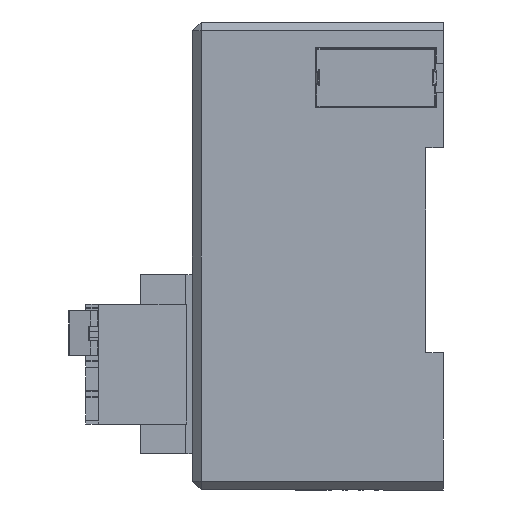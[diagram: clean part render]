
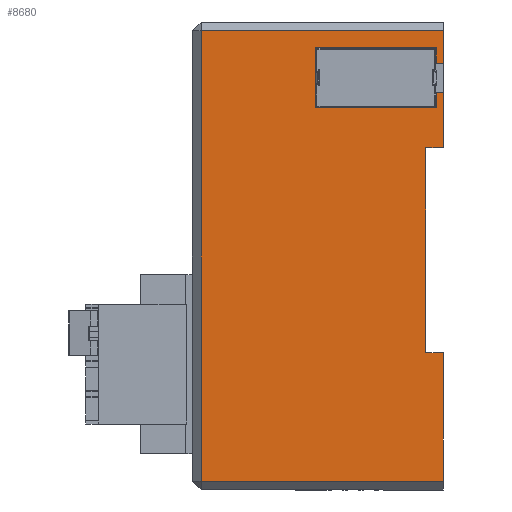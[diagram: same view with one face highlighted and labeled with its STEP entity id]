
A CAD part, left-side view. The second image highlights one B-rep face of the part: STEP entity #8680.
In plain terms, the highlighted planar face has unit normal (-1, 0, 0).
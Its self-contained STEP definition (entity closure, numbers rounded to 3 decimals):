
#56 = LINE ( 'NONE', #16531, #7143 ) ;
#328 = EDGE_CURVE ( 'NONE', #964, #6626, #29196, .T. ) ;
#653 = LINE ( 'NONE', #10599, #21937 ) ;
#964 = VERTEX_POINT ( 'NONE', #32488 ) ;
#1102 = ORIENTED_EDGE ( 'NONE', *, *, #8218, .F. ) ;
#1629 = DIRECTION ( 'NONE',  ( 0., 0., -1. ) ) ;
#1854 = LINE ( 'NONE', #31692, #15217 ) ;
#1963 = EDGE_CURVE ( 'NONE', #12907, #22538, #15726, .T. ) ;
#2382 = CARTESIAN_POINT ( 'NONE',  ( -19., 41.4, -78.5 ) ) ;
#2433 = DIRECTION ( 'NONE',  ( 0., 1., 0. ) ) ;
#2496 = CARTESIAN_POINT ( 'NONE',  ( -19., 3., -56.5 ) ) ;
#3530 = EDGE_CURVE ( 'NONE', #22298, #30989, #25626, .T. ) ;
#3833 = ORIENTED_EDGE ( 'NONE', *, *, #3530, .F. ) ;
#5196 = CARTESIAN_POINT ( 'NONE',  ( -19., 41.4, -1.5 ) ) ;
#5353 = CARTESIAN_POINT ( 'NONE',  ( -19., 0., -56.5 ) ) ;
#5890 = DIRECTION ( 'NONE',  ( 0., -1., 0. ) ) ;
#5902 = LINE ( 'NONE', #25574, #33391 ) ;
#6626 = VERTEX_POINT ( 'NONE', #13504 ) ;
#6900 = DIRECTION ( 'NONE',  ( 0., -1., 0. ) ) ;
#7143 = VECTOR ( 'NONE', #8607, 1000. ) ;
#7197 = EDGE_CURVE ( 'NONE', #22007, #22298, #22814, .T. ) ;
#7214 = VECTOR ( 'NONE', #15204, 1000. ) ;
#7533 = VECTOR ( 'NONE', #6900, 1000. ) ;
#7568 = ORIENTED_EDGE ( 'NONE', *, *, #25969, .F. ) ;
#7569 = CARTESIAN_POINT ( 'NONE',  ( -19., 0., -56.5 ) ) ;
#7957 = ORIENTED_EDGE ( 'NONE', *, *, #12057, .T. ) ;
#7978 = DIRECTION ( 'NONE',  ( 0., -1., 0. ) ) ;
#8095 = VECTOR ( 'NONE', #16568, 1000. ) ;
#8218 = EDGE_CURVE ( 'NONE', #22538, #10585, #1854, .T. ) ;
#8607 = DIRECTION ( 'NONE',  ( 0., -1., 0. ) ) ;
#8624 = VECTOR ( 'NONE', #16745, 1000. ) ;
#8673 = EDGE_CURVE ( 'NONE', #6626, #22413, #22268, .T. ) ;
#8680 = ADVANCED_FACE ( 'NONE', ( #21431 ), #24613, .T. ) ;
#8812 = DIRECTION ( 'NONE',  ( 0., 0., -1. ) ) ;
#9671 = VERTEX_POINT ( 'NONE', #2382 ) ;
#9950 = VERTEX_POINT ( 'NONE', #30098 ) ;
#10195 = CARTESIAN_POINT ( 'NONE',  ( -19., 0., -21.5 ) ) ;
#10334 = VECTOR ( 'NONE', #33058, 1000. ) ;
#10520 = ORIENTED_EDGE ( 'NONE', *, *, #8673, .F. ) ;
#10585 = VERTEX_POINT ( 'NONE', #16901 ) ;
#10599 = CARTESIAN_POINT ( 'NONE',  ( -19., 0., 0. ) ) ;
#11007 = EDGE_CURVE ( 'NONE', #22413, #22007, #56, .T. ) ;
#11128 = ORIENTED_EDGE ( 'NONE', *, *, #29642, .F. ) ;
#11335 = DIRECTION ( 'NONE',  ( 0., 0., 1. ) ) ;
#11923 = ORIENTED_EDGE ( 'NONE', *, *, #21314, .F. ) ;
#12057 = EDGE_CURVE ( 'NONE', #9671, #28800, #15457, .T. ) ;
#12215 = ORIENTED_EDGE ( 'NONE', *, *, #17050, .T. ) ;
#12515 = CARTESIAN_POINT ( 'NONE',  ( -19., 42.9, -1.5 ) ) ;
#12907 = VERTEX_POINT ( 'NONE', #29686 ) ;
#13504 = CARTESIAN_POINT ( 'NONE',  ( -19., 1.2, -14.7 ) ) ;
#13734 = ORIENTED_EDGE ( 'NONE', *, *, #26337, .F. ) ;
#13880 = CARTESIAN_POINT ( 'NONE',  ( -19., 1.2, -14.7 ) ) ;
#14062 = CARTESIAN_POINT ( 'NONE',  ( -19., 1.2, -14.7 ) ) ;
#14826 = CARTESIAN_POINT ( 'NONE',  ( -19., 0., -78.5 ) ) ;
#15204 = DIRECTION ( 'NONE',  ( 0., 1., 0. ) ) ;
#15217 = VECTOR ( 'NONE', #2433, 1000. ) ;
#15457 = LINE ( 'NONE', #14826, #7533 ) ;
#15726 = LINE ( 'NONE', #14062, #8624 ) ;
#16075 = DIRECTION ( 'NONE',  ( 0., 0., -1. ) ) ;
#16531 = CARTESIAN_POINT ( 'NONE',  ( -19., 1.2, -12.05 ) ) ;
#16568 = DIRECTION ( 'NONE',  ( 0., 0., 1. ) ) ;
#16745 = DIRECTION ( 'NONE',  ( 0., 0., 1. ) ) ;
#16802 = EDGE_CURVE ( 'NONE', #30989, #32384, #28028, .T. ) ;
#16901 = CARTESIAN_POINT ( 'NONE',  ( -19., 21.9, -4.4 ) ) ;
#17050 = EDGE_CURVE ( 'NONE', #9950, #32423, #28477, .T. ) ;
#18048 = CARTESIAN_POINT ( 'NONE',  ( -19., 1.2, -12.05 ) ) ;
#18651 = ORIENTED_EDGE ( 'NONE', *, *, #328, .F. ) ;
#19035 = VECTOR ( 'NONE', #16075, 1000. ) ;
#19036 = ORIENTED_EDGE ( 'NONE', *, *, #7197, .F. ) ;
#19231 = CARTESIAN_POINT ( 'NONE',  ( -19., 0., 0. ) ) ;
#19618 = AXIS2_PLACEMENT_3D ( 'NONE', #19231, #27294, #11335 ) ;
#19686 = EDGE_CURVE ( 'NONE', #32384, #33458, #26671, .T. ) ;
#20060 = CARTESIAN_POINT ( 'NONE',  ( -19., 0., -21.5 ) ) ;
#20216 = EDGE_LOOP ( 'NONE', ( #20484, #10520, #18651, #11128, #1102, #33607, #7568, #11923, #12215, #33643, #7957, #13734, #33673, #34189, #3833, #19036 ) ) ;
#20484 = ORIENTED_EDGE ( 'NONE', *, *, #11007, .F. ) ;
#20929 = EDGE_CURVE ( 'NONE', #32423, #9671, #29048, .T. ) ;
#20938 = VECTOR ( 'NONE', #8812, 1000. ) ;
#21314 = EDGE_CURVE ( 'NONE', #9950, #31996, #653, .T. ) ;
#21431 = FACE_OUTER_BOUND ( 'NONE', #20216, .T. ) ;
#21679 = DIRECTION ( 'NONE',  ( 0., 0., -1. ) ) ;
#21937 = VECTOR ( 'NONE', #26571, 1000. ) ;
#22007 = VERTEX_POINT ( 'NONE', #29409 ) ;
#22105 = VECTOR ( 'NONE', #7978, 1000. ) ;
#22268 = LINE ( 'NONE', #13880, #8095 ) ;
#22298 = VERTEX_POINT ( 'NONE', #20060 ) ;
#22413 = VERTEX_POINT ( 'NONE', #18048 ) ;
#22538 = VERTEX_POINT ( 'NONE', #31669 ) ;
#22814 = LINE ( 'NONE', #27348, #29050 ) ;
#23466 = DIRECTION ( 'NONE',  ( 0., 1., 0. ) ) ;
#24613 = PLANE ( 'NONE',  #19618 ) ;
#25574 = CARTESIAN_POINT ( 'NONE',  ( -19., 21.9, -14.7 ) ) ;
#25626 = LINE ( 'NONE', #10195, #31826 ) ;
#25969 = EDGE_CURVE ( 'NONE', #31996, #12907, #31573, .T. ) ;
#26170 = LINE ( 'NONE', #5353, #19035 ) ;
#26337 = EDGE_CURVE ( 'NONE', #33458, #28800, #26170, .T. ) ;
#26571 = DIRECTION ( 'NONE',  ( 0., 0., -1. ) ) ;
#26671 = LINE ( 'NONE', #29784, #32040 ) ;
#27294 = DIRECTION ( 'NONE',  ( -1., 0., 0. ) ) ;
#27348 = CARTESIAN_POINT ( 'NONE',  ( -19., 0., 0. ) ) ;
#27384 = VECTOR ( 'NONE', #21679, 1000. ) ;
#28028 = LINE ( 'NONE', #32651, #20938 ) ;
#28477 = LINE ( 'NONE', #12515, #7214 ) ;
#28800 = VERTEX_POINT ( 'NONE', #29895 ) ;
#29048 = LINE ( 'NONE', #32241, #27384 ) ;
#29050 = VECTOR ( 'NONE', #30008, 1000. ) ;
#29196 = LINE ( 'NONE', #31967, #22105 ) ;
#29409 = CARTESIAN_POINT ( 'NONE',  ( -19., 0., -12.05 ) ) ;
#29642 = EDGE_CURVE ( 'NONE', #10585, #964, #5902, .T. ) ;
#29686 = CARTESIAN_POINT ( 'NONE',  ( -19., 1.2, -7.05 ) ) ;
#29784 = CARTESIAN_POINT ( 'NONE',  ( -19., 3., -56.5 ) ) ;
#29895 = CARTESIAN_POINT ( 'NONE',  ( -19., 0., -78.5 ) ) ;
#30008 = DIRECTION ( 'NONE',  ( 0., 0., -1. ) ) ;
#30098 = CARTESIAN_POINT ( 'NONE',  ( -19., 0., -1.5 ) ) ;
#30135 = CARTESIAN_POINT ( 'NONE',  ( -19., 0., -7.05 ) ) ;
#30402 = CARTESIAN_POINT ( 'NONE',  ( -19., 1.2, -7.05 ) ) ;
#30989 = VERTEX_POINT ( 'NONE', #33558 ) ;
#31573 = LINE ( 'NONE', #30402, #10334 ) ;
#31669 = CARTESIAN_POINT ( 'NONE',  ( -19., 1.2, -4.4 ) ) ;
#31692 = CARTESIAN_POINT ( 'NONE',  ( -19., 21.9, -4.4 ) ) ;
#31826 = VECTOR ( 'NONE', #23466, 1000. ) ;
#31967 = CARTESIAN_POINT ( 'NONE',  ( -19., 21.9, -14.7 ) ) ;
#31996 = VERTEX_POINT ( 'NONE', #30135 ) ;
#32040 = VECTOR ( 'NONE', #5890, 1000. ) ;
#32241 = CARTESIAN_POINT ( 'NONE',  ( -19., 41.4, -80. ) ) ;
#32384 = VERTEX_POINT ( 'NONE', #2496 ) ;
#32423 = VERTEX_POINT ( 'NONE', #5196 ) ;
#32488 = CARTESIAN_POINT ( 'NONE',  ( -19., 21.9, -14.7 ) ) ;
#32651 = CARTESIAN_POINT ( 'NONE',  ( -19., 3., -21.5 ) ) ;
#33058 = DIRECTION ( 'NONE',  ( 0., 1., 0. ) ) ;
#33391 = VECTOR ( 'NONE', #1629, 1000. ) ;
#33458 = VERTEX_POINT ( 'NONE', #7569 ) ;
#33558 = CARTESIAN_POINT ( 'NONE',  ( -19., 3., -21.5 ) ) ;
#33607 = ORIENTED_EDGE ( 'NONE', *, *, #1963, .F. ) ;
#33643 = ORIENTED_EDGE ( 'NONE', *, *, #20929, .T. ) ;
#33673 = ORIENTED_EDGE ( 'NONE', *, *, #19686, .F. ) ;
#34189 = ORIENTED_EDGE ( 'NONE', *, *, #16802, .F. ) ;
